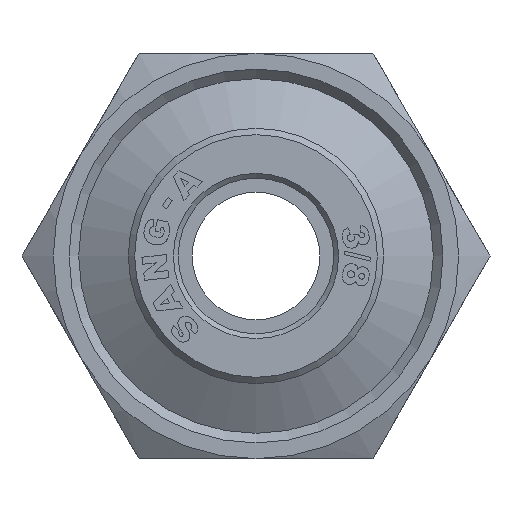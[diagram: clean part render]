
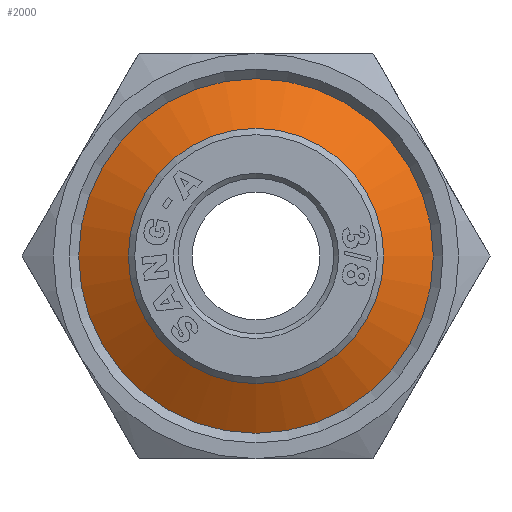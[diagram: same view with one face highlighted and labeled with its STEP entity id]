
A CAD part, left-side view. The second image highlights one B-rep face of the part: STEP entity #2000.
In plain terms, the highlighted conical face has half-angle 60 degrees and reference radius 9.431 mm.
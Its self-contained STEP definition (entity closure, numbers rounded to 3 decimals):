
#1966=CARTESIAN_POINT('',(2.5,7.75,0.0));
#1967=VERTEX_POINT('',#1966);
#1968=CARTESIAN_POINT('',(2.5,0.0,0.0));
#1969=DIRECTION('',(1.0,0.0,0.0));
#1970=DIRECTION('',(0.0,1.0,0.0));
#1971=AXIS2_PLACEMENT_3D('',#1968,#1969,#1970);
#1972=CIRCLE('',#1971,7.75);
#1973=EDGE_CURVE('',#1967,#1967,#1972,.T.);
#1981=CARTESIAN_POINT('',(3.471,0.0,0.0));
#1982=DIRECTION('',(1.0,0.0,0.0));
#1983=DIRECTION('',(0.0,1.0,0.0));
#1984=AXIS2_PLACEMENT_3D('',#1981,#1982,#1983);
#1985=CONICAL_SURFACE('',#1984,9.431,60.);
#1986=CARTESIAN_POINT('',(4.441,11.113,0.0));
#1987=VERTEX_POINT('',#1986);
#1988=CARTESIAN_POINT('',(4.441,0.0,0.0));
#1989=DIRECTION('',(1.0,0.0,0.0));
#1990=DIRECTION('',(0.0,1.0,0.0));
#1991=AXIS2_PLACEMENT_3D('',#1988,#1989,#1990);
#1992=CIRCLE('',#1991,11.113);
#1993=EDGE_CURVE('',#1987,#1987,#1992,.T.);
#1994=ORIENTED_EDGE('',*,*,#1993,.F.);
#1995=EDGE_LOOP('',(#1994));
#1996=FACE_OUTER_BOUND('',#1995,.T.);
#1997=ORIENTED_EDGE('',*,*,#1973,.T.);
#1998=EDGE_LOOP('',(#1997));
#1999=FACE_BOUND('',#1998,.T.);
#2000=ADVANCED_FACE('',(#1996,#1999),#1985,.T.);
